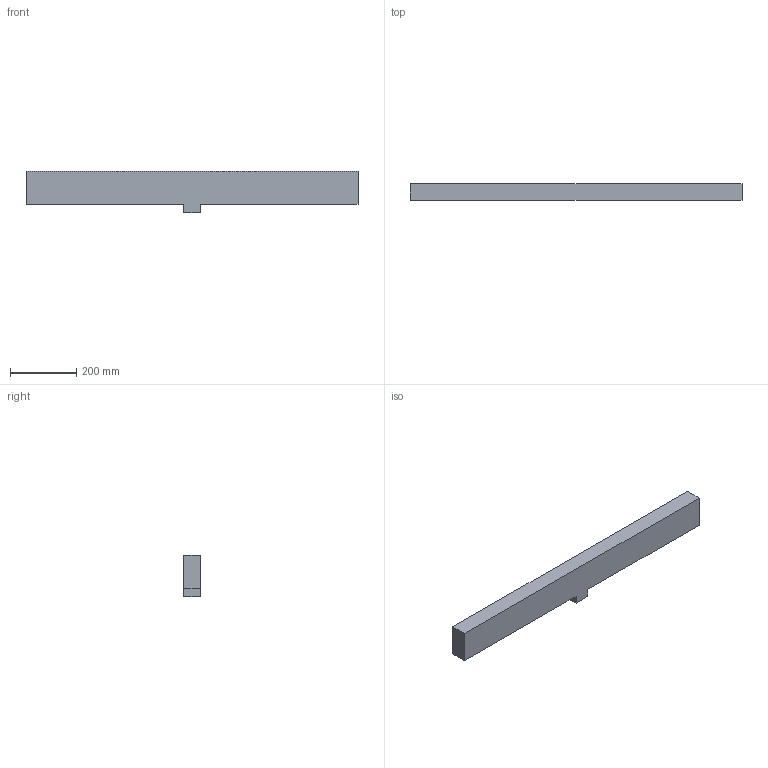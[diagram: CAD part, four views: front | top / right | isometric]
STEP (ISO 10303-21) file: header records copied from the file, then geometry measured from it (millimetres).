
FILE_DESCRIPTION(('FreeCAD Model'),'2;1');
FILE_NAME('Open CASCADE Shape Model','2026-09-07T13:52:58',('Author'),( ''),'Open CASCADE STEP processor 7.8','FreeCAD','Unknown');
FILE_SCHEMA(('AUTOMOTIVE_DESIGN { 1 0 10303 214 1 1 1 1 }'));
Length unit declared in the file: millimetre
Products named in the file (1): structure
Bounding box: 1000 x 50 x 125 mm (x, y, z)
Volume: 5062500 mm3; surface area: 315000 mm2
Topology: 1 solids, 1 shells, 10 faces, 24 edges, 16 vertices
Faces by surface type: plane 10
Entity records: 310 total; most frequent: CARTESIAN_POINT 51, ORIENTED_EDGE 48, DIRECTION 46, EDGE_CURVE 24, LINE 24, VECTOR 24, VERTEX_POINT 16, AXIS2_PLACEMENT_3D 11
